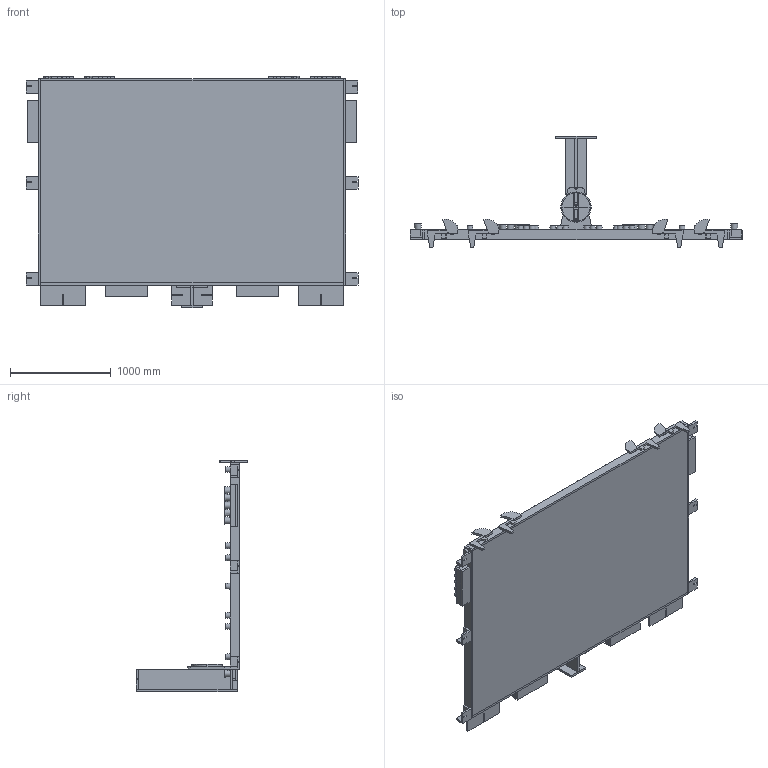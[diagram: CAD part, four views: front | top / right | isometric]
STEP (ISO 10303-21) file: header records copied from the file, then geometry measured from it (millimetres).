
FILE_DESCRIPTION(/* description */ (''),/* implementation_level */ '2;1');
FILE_NAME(/* name */ '/Users/sullivan/Documents/Perso/PlaneteSciences/2020/Commission règlement/Images/Eurobot2020_TableElement_Cup_v50.step',/* time_stamp */ '2019-10-20T21:49:19+02:00',/* author */ (''),/* organization */ (''),/* preprocessor_version */ 'ST-DEVELOPER v18',/* originating_system */ 'Autodesk Translation Framework v8.6.0.1094',/* authorisation */ '');
FILE_SCHEMA (('AUTOMOTIVE_DESIGN { 1 0 10303 214 3 1 1 }'));
Length unit declared in the file: millimetre
Products named in the file (59): TableElement2020; Table2020; Rocher; BaseTable; BorderLong; BorderSmall; Ground; Edge Beacon Right; Edge Beacon Left; Edge Beacon Right_1; Edge Beacon Right_2; Edge Beacon Left_1; Edge Beacon Left_2; EdgeBeacons_Base; EdgeBeacons_LargeBorder; EdgeBeacons_SmallBorder; MiddleBeaconVertSupport1; MiddleBeaconVertSupport2; MiddleBeaconTop; Rocher_1; Rocher_2; Rocher_3; Planche Socle; Planche Fond; Planche Gauche; Planche Droite; Cale; ZoneRocheuse; manchonJaune; manchonJaune_1; Taquet; Component2; Component3; taquet_1; ROUE_MINI_V3_ASSEMBLAGE; SUPPORT; FLECHE; FIXATION; ROUE_V3; INTERIEUR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
Assembly tree (141 placements, depth 5):
  TableElement2020
    Balise Rouge  x22
    Balise Verte  x22
    Table2020
      ZoneRocheuse  x2
      Rocher
        Planche Socle
        Planche Fond
        Planche Gauche
        Planche Droite
        Cale
      BaseTable
        BorderLong  x2
        BorderSmall  x2
        Ground
        Edge Beacon Right
          EdgeBeacons_Base
          EdgeBeacons_SmallBorder
          EdgeBeacons_LargeBorder
        Edge Beacon Left
          EdgeBeacons_Base
          EdgeBeacons_LargeBorder
          EdgeBeacons_SmallBorder
        Edge Beacon Right_1
          EdgeBeacons_Base
          EdgeBeacons_SmallBorder
          EdgeBeacons_LargeBorder
        Edge Beacon Right_2
          EdgeBeacons_Base
          EdgeBeacons_SmallBorder
          EdgeBeacons_LargeBorder
        Edge Beacon Left_1
          EdgeBeacons_Base
          EdgeBeacons_LargeBorder
          EdgeBeacons_SmallBorder
        Edge Beacon Left_2
          EdgeBeacons_Base
          EdgeBeacons_LargeBorder
          EdgeBeacons_SmallBorder
        MiddleBeaconVertSupport1
        MiddleBeaconVertSupport2
        MiddleBeaconTop
      Rocher_1
        Planche Socle
        Planche Fond
        Planche Gauche
        Planche Droite
        Cale
      Rocher_2
        Planche Socle
        Planche Fond
        Planche Gauche
        Planche Droite
        Cale
      Rocher_3
        Planche Socle
        Planche Fond
        Planche Gauche
        Planche Droite
        Cale
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Bounding box: 3288 x 1105 x 2288 mm (x, y, z)
Volume: 186387431.6 mm3; surface area: 21198352.4 mm2
Topology: 128 solids, 128 shells, 863 faces, 1851 edges, 1281 vertices
Faces by surface type: plane 681, cone 97, cylinder 83, bspline 2
Full cylindrical faces by diameter (mm): 2.578 x13, 2.582 x1, 3 x1, 4 x3, 5 x4, 6 x1, 7 x2, 10 x2, 25 x2, 56 x20
Entity records: 14399 total; most frequent: CARTESIAN_POINT 3851, DIRECTION 2030, ORIENTED_EDGE 1622, EDGE_CURVE 811, AXIS2_PLACEMENT_3D 689, LINE 652, VECTOR 652, VERTEX_POINT 535
